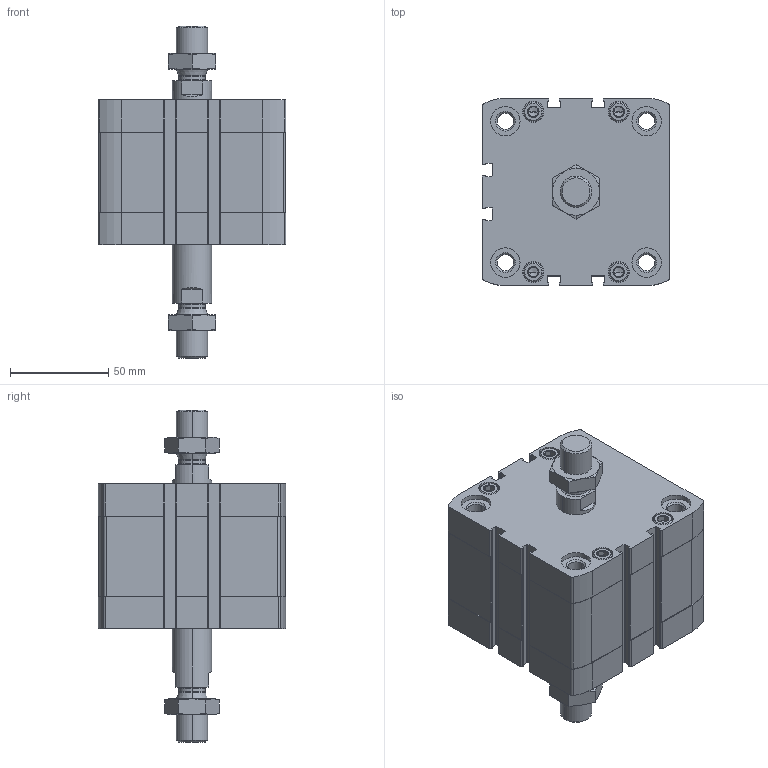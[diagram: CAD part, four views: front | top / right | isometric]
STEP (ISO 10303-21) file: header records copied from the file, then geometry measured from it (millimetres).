
FILE_DESCRIPTION (( 'STEP AP203' ), '1' );
FILE_NAME ('CCN80-20-P.STEP', '2020-06-22T19:05:49', ( '' ), ( '' ), 'SwSTEP 2.0', 'SolidWorks 2019', '' );
FILE_SCHEMA (( 'CONFIG_CONTROL_DESIGN' ));
Length unit declared in the file: millimetre
Products named in the file (1): CCN80-20-P
Bounding box: 95.5 x 95.5 x 169.2 mm (x, y, z)
Volume: 564379.6 mm3; surface area: 110688.6 mm2
Topology: 4 solids, 4 shells, 544 faces, 1352 edges, 848 vertices
Faces by surface type: plane 248, cylinder 196, cone 92, torus 8
Entity records: 17807 total; most frequent: CARTESIAN_POINT 4577, DIRECTION 2866, ORIENTED_EDGE 2672, EDGE_CURVE 1336, AXIS2_PLACEMENT_3D 1077, VERTEX_POINT 848, LINE 712, VECTOR 712
